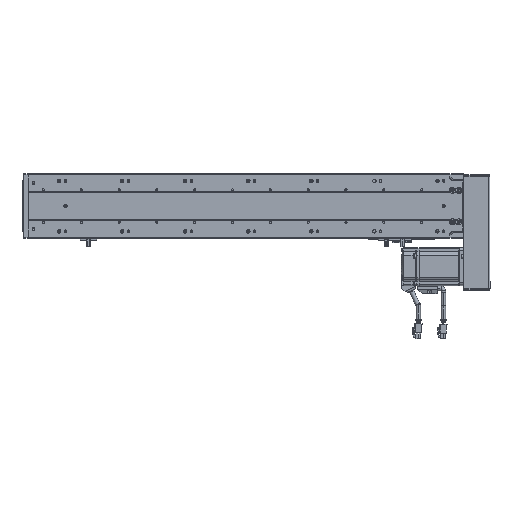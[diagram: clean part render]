
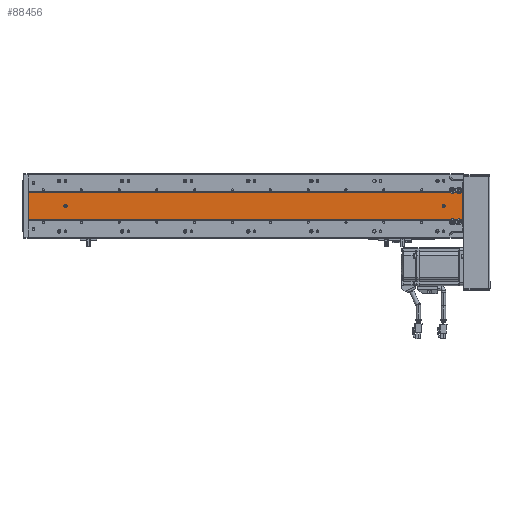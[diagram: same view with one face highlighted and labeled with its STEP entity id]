
A CAD part, front view. The second image highlights one B-rep face of the part: STEP entity #88456.
In plain terms, the highlighted planar face has unit normal (0, -1, 0).
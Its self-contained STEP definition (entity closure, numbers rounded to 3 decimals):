
#1623 = EDGE_CURVE ( 'NONE', #40185, #40200, #86498, .T. ) ;
#1718 = EDGE_CURVE ( 'NONE', #40210, #40192, #84387, .T. ) ;
#2021 = ORIENTED_EDGE ( 'NONE', *, *, #77439, .F. ) ;
#2056 = ORIENTED_EDGE ( 'NONE', *, *, #1623, .T. ) ;
#2059 = ORIENTED_EDGE ( 'NONE', *, *, #3047, .F. ) ;
#2090 = ORIENTED_EDGE ( 'NONE', *, *, #2955, .T. ) ;
#2093 = ORIENTED_EDGE ( 'NONE', *, *, #77345, .T. ) ;
#2168 = ORIENTED_EDGE ( 'NONE', *, *, #77419, .F. ) ;
#2199 = ORIENTED_EDGE ( 'NONE', *, *, #2975, .F. ) ;
#2202 = ORIENTED_EDGE ( 'NONE', *, *, #77495, .T. ) ;
#2214 = ORIENTED_EDGE ( 'NONE', *, *, #2495, .F. ) ;
#2217 = ORIENTED_EDGE ( 'NONE', *, *, #3044, .F. ) ;
#2220 = ORIENTED_EDGE ( 'NONE', *, *, #77465, .T. ) ;
#2251 = ORIENTED_EDGE ( 'NONE', *, *, #1718, .T. ) ;
#2271 = ORIENTED_EDGE ( 'NONE', *, *, #77323, .T. ) ;
#2294 = ORIENTED_EDGE ( 'NONE', *, *, #3116, .T. ) ;
#2343 = ORIENTED_EDGE ( 'NONE', *, *, #77413, .F. ) ;
#2346 = ORIENTED_EDGE ( 'NONE', *, *, #2515, .F. ) ;
#2495 = EDGE_CURVE ( 'NONE', #40471, #40476, #85080, .T. ) ;
#2515 = EDGE_CURVE ( 'NONE', #40446, #40442, #85005, .T. ) ;
#2955 = EDGE_CURVE ( 'NONE', #40572, #40672, #85419, .T. ) ;
#2975 = EDGE_CURVE ( 'NONE', #40185, #40591, #85453, .T. ) ;
#3044 = EDGE_CURVE ( 'NONE', #40210, #40200, #85511, .T. ) ;
#3047 = EDGE_CURVE ( 'NONE', #40676, #40737, #85501, .T. ) ;
#3116 = EDGE_CURVE ( 'NONE', #40682, #40670, #85287, .T. ) ;
#5084 = VERTEX_POINT ( 'NONE', #80193 ) ;
#7614 = CARTESIAN_POINT ( 'NONE',  ( 140.403, 89.548, 59. ) ) ;
#7636 = DIRECTION ( 'NONE',  ( 1., 0., 0. ) ) ;
#7652 = DIRECTION ( 'NONE',  ( 0., -1., 0. ) ) ;
#7716 = DIRECTION ( 'NONE',  ( 1., 0., 0. ) ) ;
#7722 = CARTESIAN_POINT ( 'NONE',  ( 161.989, 89.548, 0. ) ) ;
#7821 = CARTESIAN_POINT ( 'NONE',  ( 115.403, 89.548, 683. ) ) ;
#7832 = DIRECTION ( 'NONE',  ( -1., 0., 0. ) ) ;
#7845 = DIRECTION ( 'NONE',  ( 0., 1., 0. ) ) ;
#9586 = DIRECTION ( 'NONE',  ( 0., 0., -1. ) ) ;
#9590 = CARTESIAN_POINT ( 'NONE',  ( 140.403, 89.548, 659. ) ) ;
#9593 = DIRECTION ( 'NONE',  ( 0., -1., 0. ) ) ;
#9606 = CARTESIAN_POINT ( 'NONE',  ( 161.989, 89.548, 689. ) ) ;
#9609 = DIRECTION ( 'NONE',  ( 1., 0., 0. ) ) ;
#9845 = DIRECTION ( 'NONE',  ( 0., 0., -1. ) ) ;
#9849 = CARTESIAN_POINT ( 'NONE',  ( 118.817, 89.548, 689. ) ) ;
#9878 = DIRECTION ( 'NONE',  ( 0., 1., 0. ) ) ;
#9882 = DIRECTION ( 'NONE',  ( -1., 0., 0. ) ) ;
#9898 = CARTESIAN_POINT ( 'NONE',  ( 115.403, 89.548, 673. ) ) ;
#13083 = LINE ( 'NONE', #9606, #19446 ) ;
#13134 = VECTOR ( 'NONE', #9845, 1000. ) ;
#13145 = LINE ( 'NONE', #9849, #13134 ) ;
#13254 = CIRCLE ( 'NONE', #81366, 4.75 ) ;
#13338 = CIRCLE ( 'NONE', #81478, 2.5 ) ;
#19446 = VECTOR ( 'NONE', #9586, 1000. ) ;
#19479 = CIRCLE ( 'NONE', #81491, 2.5 ) ;
#19513 = VECTOR ( 'NONE', #7716, 1000. ) ;
#19515 = CIRCLE ( 'NONE', #81503, 4.75 ) ;
#19557 = LINE ( 'NONE', #7722, #19513 ) ;
#25806 = CARTESIAN_POINT ( 'NONE',  ( 161.989, 89.548, 689. ) ) ;
#25831 = PLANE ( 'NONE',  #82648 ) ;
#25836 = DIRECTION ( 'NONE',  ( -1., 0., 0. ) ) ;
#25837 = DIRECTION ( 'NONE',  ( 0., 1., 0. ) ) ;
#26970 = CARTESIAN_POINT ( 'NONE',  ( 161.989, 89.548, 689. ) ) ;
#26972 = DIRECTION ( 'NONE',  ( 0., 0., -1. ) ) ;
#26988 = DIRECTION ( 'NONE',  ( 0., 0., -1. ) ) ;
#26994 = CARTESIAN_POINT ( 'NONE',  ( 118.817, 89.548, 689. ) ) ;
#27054 = CARTESIAN_POINT ( 'NONE',  ( 161.989, 89.548, 689. ) ) ;
#27069 = CARTESIAN_POINT ( 'NONE',  ( 161.989, 89.548, 689. ) ) ;
#27074 = DIRECTION ( 'NONE',  ( 1., 0., 0. ) ) ;
#27082 = DIRECTION ( 'NONE',  ( 0., 0., -1. ) ) ;
#27094 = DIRECTION ( 'NONE',  ( 0., 0., -1. ) ) ;
#27134 = CARTESIAN_POINT ( 'NONE',  ( 118.817, 89.548, 689. ) ) ;
#34849 = EDGE_LOOP ( 'NONE', ( #2343, #2346 ) ) ;
#34850 = EDGE_LOOP ( 'NONE', ( #2217, #2251, #2168, #2059, #2271, #2202, #2090, #2093, #2294, #2220, #2199, #2056 ) ) ;
#34886 = EDGE_LOOP ( 'NONE', ( #2021, #2214 ) ) ;
#40185 = VERTEX_POINT ( 'NONE', #65934 ) ;
#40192 = VERTEX_POINT ( 'NONE', #66005 ) ;
#40200 = VERTEX_POINT ( 'NONE', #65996 ) ;
#40210 = VERTEX_POINT ( 'NONE', #66013 ) ;
#40442 = VERTEX_POINT ( 'NONE', #66195 ) ;
#40446 = VERTEX_POINT ( 'NONE', #66247 ) ;
#40471 = VERTEX_POINT ( 'NONE', #66271 ) ;
#40476 = VERTEX_POINT ( 'NONE', #66240 ) ;
#40572 = VERTEX_POINT ( 'NONE', #59173 ) ;
#40591 = VERTEX_POINT ( 'NONE', #59240 ) ;
#40670 = VERTEX_POINT ( 'NONE', #59292 ) ;
#40672 = VERTEX_POINT ( 'NONE', #59454 ) ;
#40676 = VERTEX_POINT ( 'NONE', #59368 ) ;
#40682 = VERTEX_POINT ( 'NONE', #59613 ) ;
#40737 = VERTEX_POINT ( 'NONE', #59504 ) ;
#59173 = CARTESIAN_POINT ( 'NONE',  ( 118.817, 89.548, 679.698 ) ) ;
#59240 = CARTESIAN_POINT ( 'NONE',  ( 161.989, 89.548, 0. ) ) ;
#59292 = CARTESIAN_POINT ( 'NONE',  ( 118.817, 89.548, 0. ) ) ;
#59368 = CARTESIAN_POINT ( 'NONE',  ( 118.817, 89.548, 689. ) ) ;
#59454 = CARTESIAN_POINT ( 'NONE',  ( 118.817, 89.548, 676.302 ) ) ;
#59504 = CARTESIAN_POINT ( 'NONE',  ( 161.989, 89.548, 689. ) ) ;
#59613 = CARTESIAN_POINT ( 'NONE',  ( 118.817, 89.548, 669.698 ) ) ;
#61704 = DIRECTION ( 'NONE',  ( 0., 1., 0. ) ) ;
#61741 = CARTESIAN_POINT ( 'NONE',  ( 165.403, 89.548, 673. ) ) ;
#61764 = DIRECTION ( 'NONE',  ( -1., 0., 0. ) ) ;
#63763 = FACE_BOUND ( 'NONE', #34849, .T. ) ;
#63767 = FACE_BOUND ( 'NONE', #34886, .T. ) ;
#63770 = FACE_OUTER_BOUND ( 'NONE', #34850, .T. ) ;
#65934 = CARTESIAN_POINT ( 'NONE',  ( 161.989, 89.548, 669.698 ) ) ;
#65996 = CARTESIAN_POINT ( 'NONE',  ( 161.989, 89.548, 676.302 ) ) ;
#66005 = CARTESIAN_POINT ( 'NONE',  ( 161.989, 89.548, 686.302 ) ) ;
#66013 = CARTESIAN_POINT ( 'NONE',  ( 161.989, 89.548, 679.698 ) ) ;
#66195 = CARTESIAN_POINT ( 'NONE',  ( 142.903, 89.548, 659. ) ) ;
#66240 = CARTESIAN_POINT ( 'NONE',  ( 142.903, 89.548, 59. ) ) ;
#66247 = CARTESIAN_POINT ( 'NONE',  ( 137.903, 89.548, 659. ) ) ;
#66271 = CARTESIAN_POINT ( 'NONE',  ( 137.903, 89.548, 59. ) ) ;
#77323 = EDGE_CURVE ( 'NONE', #40676, #5084, #13145, .T. ) ;
#77345 = EDGE_CURVE ( 'NONE', #40672, #40682, #13254, .T. ) ;
#77413 = EDGE_CURVE ( 'NONE', #40442, #40446, #13338, .T. ) ;
#77419 = EDGE_CURVE ( 'NONE', #40737, #40192, #13083, .T. ) ;
#77439 = EDGE_CURVE ( 'NONE', #40476, #40471, #19479, .T. ) ;
#77465 = EDGE_CURVE ( 'NONE', #40670, #40591, #19557, .T. ) ;
#77495 = EDGE_CURVE ( 'NONE', #5084, #40572, #19515, .T. ) ;
#79780 = AXIS2_PLACEMENT_3D ( 'NONE', #61741, #61704, #61764 ) ;
#79891 = AXIS2_PLACEMENT_3D ( 'NONE', #86066, #86038, #86051 ) ;
#80139 = AXIS2_PLACEMENT_3D ( 'NONE', #83784, #83775, #83759 ) ;
#80146 = AXIS2_PLACEMENT_3D ( 'NONE', #83792, #83807, #83787 ) ;
#80193 = CARTESIAN_POINT ( 'NONE',  ( 118.817, 89.548, 686.302 ) ) ;
#81366 = AXIS2_PLACEMENT_3D ( 'NONE', #9898, #9878, #9882 ) ;
#81478 = AXIS2_PLACEMENT_3D ( 'NONE', #9590, #9593, #9609 ) ;
#81491 = AXIS2_PLACEMENT_3D ( 'NONE', #7614, #7652, #7636 ) ;
#81503 = AXIS2_PLACEMENT_3D ( 'NONE', #7821, #7845, #7832 ) ;
#82648 = AXIS2_PLACEMENT_3D ( 'NONE', #25806, #25837, #25836 ) ;
#83759 = DIRECTION ( 'NONE',  ( 1., 0., 0. ) ) ;
#83775 = DIRECTION ( 'NONE',  ( 0., -1., 0. ) ) ;
#83784 = CARTESIAN_POINT ( 'NONE',  ( 140.403, 89.548, 59. ) ) ;
#83787 = DIRECTION ( 'NONE',  ( 1., 0., 0. ) ) ;
#83792 = CARTESIAN_POINT ( 'NONE',  ( 140.403, 89.548, 659. ) ) ;
#83807 = DIRECTION ( 'NONE',  ( 0., -1., 0. ) ) ;
#84387 = CIRCLE ( 'NONE', #79891, 4.75 ) ;
#85005 = CIRCLE ( 'NONE', #80146, 2.5 ) ;
#85080 = CIRCLE ( 'NONE', #80139, 2.5 ) ;
#85287 = LINE ( 'NONE', #27134, #85455 ) ;
#85403 = VECTOR ( 'NONE', #26972, 1000. ) ;
#85419 = LINE ( 'NONE', #26994, #85431 ) ;
#85431 = VECTOR ( 'NONE', #26988, 1000. ) ;
#85453 = LINE ( 'NONE', #26970, #85403 ) ;
#85455 = VECTOR ( 'NONE', #27094, 1000. ) ;
#85501 = LINE ( 'NONE', #27069, #85503 ) ;
#85503 = VECTOR ( 'NONE', #27074, 1000. ) ;
#85511 = LINE ( 'NONE', #27054, #85527 ) ;
#85527 = VECTOR ( 'NONE', #27082, 1000. ) ;
#86038 = DIRECTION ( 'NONE',  ( 0., 1., 0. ) ) ;
#86051 = DIRECTION ( 'NONE',  ( -1., 0., 0. ) ) ;
#86066 = CARTESIAN_POINT ( 'NONE',  ( 165.403, 89.548, 683. ) ) ;
#86498 = CIRCLE ( 'NONE', #79780, 4.75 ) ;
#88456 = ADVANCED_FACE ( 'NONE', ( #63763, #63767, #63770 ), #25831, .F. ) ;
